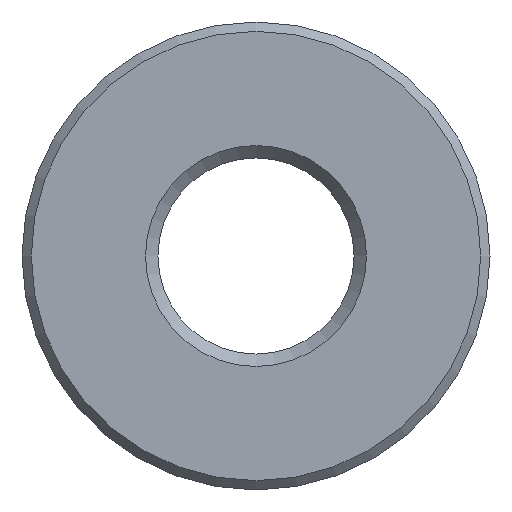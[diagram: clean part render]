
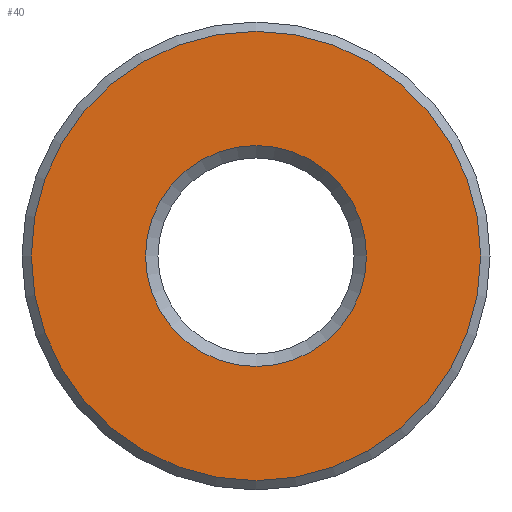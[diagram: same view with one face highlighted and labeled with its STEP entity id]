
A CAD part, left-side view. The second image highlights one B-rep face of the part: STEP entity #40.
In plain terms, the highlighted planar face has unit normal (-1, 0, 0).
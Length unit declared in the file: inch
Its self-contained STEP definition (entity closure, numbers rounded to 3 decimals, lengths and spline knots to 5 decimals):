
#40 = ADVANCED_FACE( '', ( #85, #86 ), #87, .F. );
#85 = FACE_OUTER_BOUND( '', #140, .T. );
#86 = FACE_BOUND( '', #141, .T. );
#87 = PLANE( '', #142 );
#140 = EDGE_LOOP( '', ( #193 ) );
#141 = EDGE_LOOP( '', ( #194 ) );
#142 = AXIS2_PLACEMENT_3D( '', #195, #196, #197 );
#193 = ORIENTED_EDGE( '', *, *, #259, .F. );
#194 = ORIENTED_EDGE( '', *, *, #260, .T. );
#195 = CARTESIAN_POINT( '', ( 0., 0., 0. ) );
#196 = DIRECTION( '', ( 1., 0., 0. ) );
#197 = DIRECTION( '', ( 0., 0., -1. ) );
#259 = EDGE_CURVE( '', #287, #287, #288, .T. );
#260 = EDGE_CURVE( '', #289, #289, #290, .T. );
#287 = VERTEX_POINT( '', #323 );
#288 = CIRCLE( '', #324, 0.36098 );
#289 = VERTEX_POINT( '', #325 );
#290 = CIRCLE( '', #326, 0.17748 );
#323 = CARTESIAN_POINT( '', ( 0., 0., -0.36098 ) );
#324 = AXIS2_PLACEMENT_3D( '', #360, #361, #362 );
#325 = CARTESIAN_POINT( '', ( 0., 0., -0.17748 ) );
#326 = AXIS2_PLACEMENT_3D( '', #363, #364, #365 );
#360 = CARTESIAN_POINT( '', ( 0., 0., 0. ) );
#361 = DIRECTION( '', ( 1., 0., 0. ) );
#362 = DIRECTION( '', ( 0., 0., -1. ) );
#363 = CARTESIAN_POINT( '', ( 0., 0., 0. ) );
#364 = DIRECTION( '', ( 1., 0., 0. ) );
#365 = DIRECTION( '', ( 0., 0., -1. ) );
